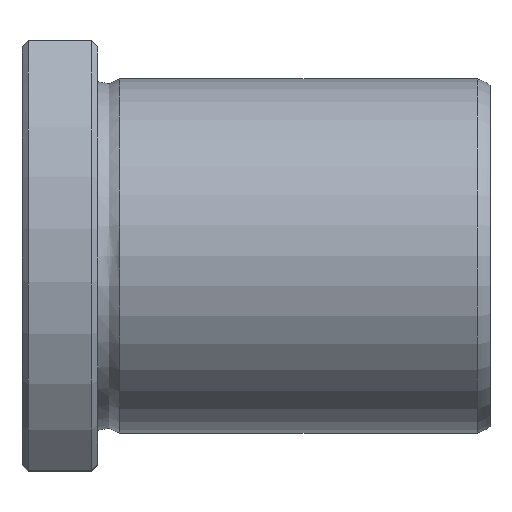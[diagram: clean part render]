
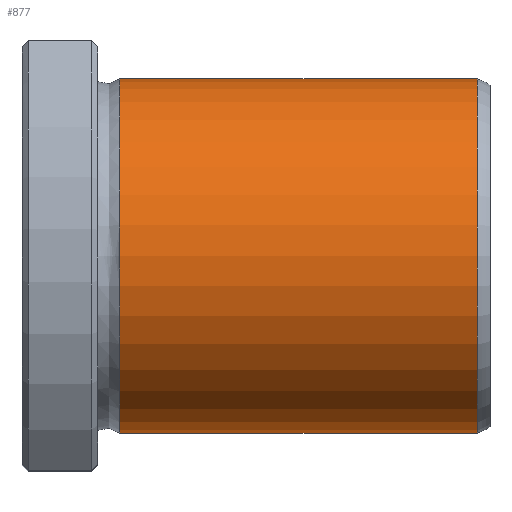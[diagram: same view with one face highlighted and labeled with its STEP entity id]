
A CAD part, top view. The second image highlights one B-rep face of the part: STEP entity #877.
In plain terms, the highlighted cylindrical face has radius 14 mm (diameter 28 mm), a full revolution.
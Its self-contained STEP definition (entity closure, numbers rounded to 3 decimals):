
#843=CARTESIAN_POINT('',(35.999,0.0,14.));
#844=VERTEX_POINT('',#843);
#845=CARTESIAN_POINT('',(35.999,0.0,0.0));
#846=DIRECTION('',(-1.0,0.0,0.0));
#847=DIRECTION('',(0.0,0.0,1.0));
#848=AXIS2_PLACEMENT_3D('',#845,#846,#847);
#849=CIRCLE('',#848,14.);
#850=EDGE_CURVE('',#844,#844,#849,.T.);
#858=CARTESIAN_POINT('',(21.859,0.0,0.0));
#859=DIRECTION('',(-1.0,0.0,0.0));
#860=DIRECTION('',(0.0,0.0,1.0));
#861=AXIS2_PLACEMENT_3D('',#858,#859,#860);
#862=CYLINDRICAL_SURFACE('',#861,14.);
#863=CARTESIAN_POINT('',(7.72,0.0,14.));
#864=VERTEX_POINT('',#863);
#865=CARTESIAN_POINT('',(7.72,0.0,0.0));
#866=DIRECTION('',(-1.0,0.0,0.0));
#867=DIRECTION('',(0.0,0.0,1.0));
#868=AXIS2_PLACEMENT_3D('',#865,#866,#867);
#869=CIRCLE('',#868,14.);
#870=EDGE_CURVE('',#864,#864,#869,.T.);
#871=ORIENTED_EDGE('',*,*,#870,.F.);
#872=EDGE_LOOP('',(#871));
#873=FACE_OUTER_BOUND('',#872,.T.);
#874=ORIENTED_EDGE('',*,*,#850,.T.);
#875=EDGE_LOOP('',(#874));
#876=FACE_BOUND('',#875,.T.);
#877=ADVANCED_FACE('',(#873,#876),#862,.T.);
